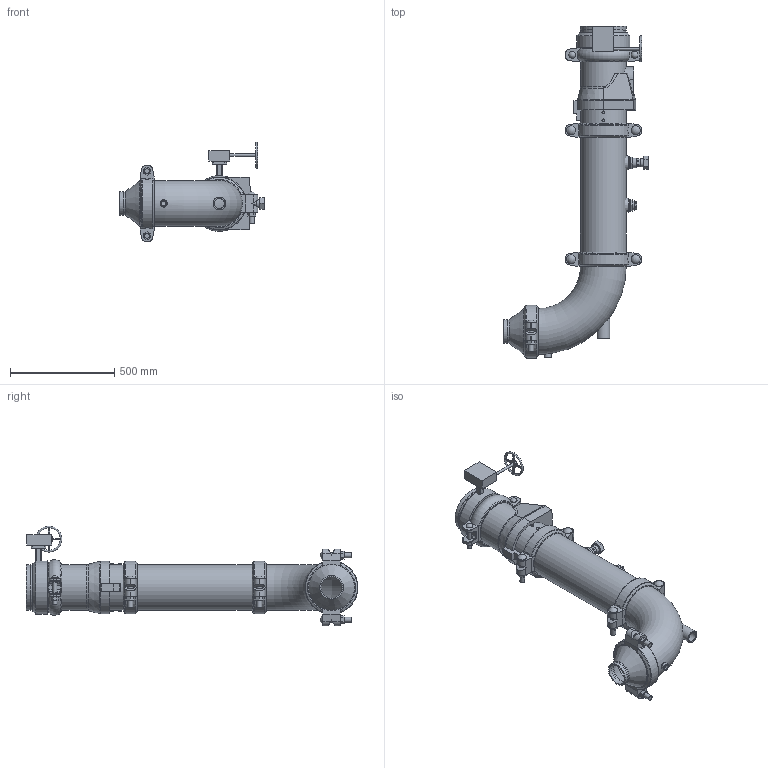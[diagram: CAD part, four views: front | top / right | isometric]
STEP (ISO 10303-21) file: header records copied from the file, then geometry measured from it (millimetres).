
FILE_DESCRIPTION(/* description */ ('VIC DVI PUMP DROP HORZ S/380G (OGSxOGS)','CAx-IF Rec.Pracs.---Representation and Presentation of Product Manufacturing Information (PMI)---4.0---2014-10-13'),/* implementation_level */ '2;1');
FILE_NAME(/* name */ 'C:\Users\kkamble\AppData\Roaming\Autodesk\ApplicationPlugins\Victaulic.Temp\A789\Victaulic_IPS_Horizontal DVI_CL 150_Series 380 (OGSxOGS)_924 (1.25)_08.0x04.0 (200x100).stp',/* time_stamp */ '2021-07-06T09:53:38+05:00',/* author */ ('Vjadhav'),/* organization */ ('Victaulic'),/* preprocessor_version */ 'ST-DEVELOPER v17.2',/* originating_system */ 'Autodesk Inventor 2019',/* authorisation */ '');
FILE_SCHEMA (('AP242_MANAGED_MODEL_BASED_3D_ENGINEERING_MIM_LF { 1 0 10303 442 1 1 4 }'));
Length unit declared in the file: inch
Products named in the file (10): 380_924 (1.25)-08.0x04.0; Pipe-08.0; 107N-08.0; 924-04.0x01.25; 923-04.0x0.75; 779-08.0; 761-08.0; 100G-08.0; 050-08.0x04.0; 177N-08.0
Assembly tree (11 placements, depth 2):
  380_924 (1.25)-08.0x04.0
    177N-08.0  x3
    Pipe-08.0
    107N-08.0
    924-04.0x01.25
    923-04.0x0.75
    779-08.0
    761-08.0
    100G-08.0
    050-08.0x04.0
Bounding box: 690.44 x 1588.66 x 477.26 mm (x, y, z)
Volume: 19802957.7 mm3; surface area: 3472643.1 mm2
Topology: 11 solids, 13 shells, 720 faces, 1873 edges, 1252 vertices
Faces by surface type: plane 402, cylinder 240, torus 28, cone 24, bspline 18, sphere 8
Full cylindrical faces by diameter (mm): 8.636 x4, 12.446 x1, 12.7 x1, 13.716 x4, 19.05 x4, 20.93 x1, 21.336 x1, 22.86 x1, 23.774 x6, 26.67 x4, 32.537 x2, 34.29 x1, 38.608 x1, 39.125 x1, 42.164 x1, 42.85 x6, 45.974 x4, 48.26 x1, 48.514 x1, 55.118 x1, 55.626 x2, 60.96 x1, 102.26 x1, 110.084 x1, 114.3 x2, 202.717 x6, 206.375 x4, 214.401 x9, 219.075 x23, 254 x1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
Entity records: 18759 total; most frequent: CARTESIAN_POINT 4465, DIRECTION 2911, ORIENTED_EDGE 2726, EDGE_CURVE 1363, AXIS2_PLACEMENT_3D 1113, VERTEX_POINT 916, LINE 685, VECTOR 685
